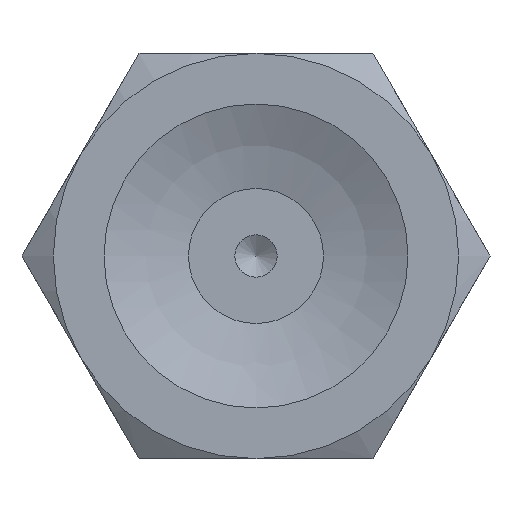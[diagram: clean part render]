
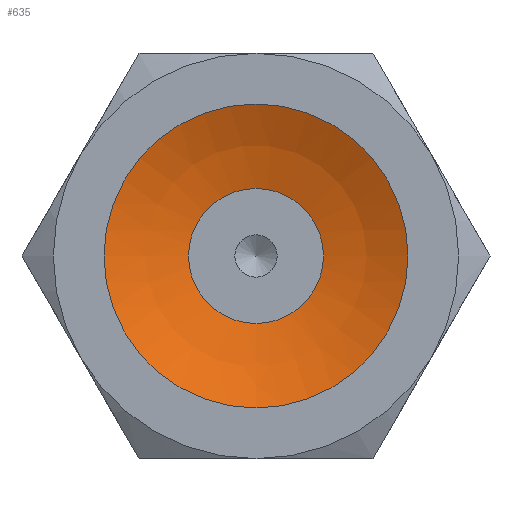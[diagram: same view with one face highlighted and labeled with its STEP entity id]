
A CAD part, front view. The second image highlights one B-rep face of the part: STEP entity #635.
In plain terms, the highlighted spherical face has radius 10.203 mm.
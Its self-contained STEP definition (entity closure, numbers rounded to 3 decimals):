
#635=ADVANCED_FACE('',(#955,#956),#957,.F.);
#955=FACE_OUTER_BOUND('',#1318,.T.);
#956=FACE_OUTER_BOUND('',#1319,.T.);
#957=SPHERICAL_SURFACE('',#1320,10.203);
#1318=EDGE_LOOP('',(#2190));
#1319=EDGE_LOOP('',(#2191));
#1320=AXIS2_PLACEMENT_3D('',#2192,#2193,#2194);
#2190=ORIENTED_EDGE('',*,*,#2559,.T.);
#2191=ORIENTED_EDGE('',*,*,#2558,.F.);
#2192=CARTESIAN_POINT('',(0.,-9.157,0.));
#2193=DIRECTION('',(0.0,-1.0,0.));
#2194=DIRECTION('',(1.0,0.0,0.0));
#2558=EDGE_CURVE('',#2962,#2962,#2963,.T.);
#2559=EDGE_CURVE('',#2964,#2964,#2965,.T.);
#2962=VERTEX_POINT('',#3996);
#2963=CIRCLE('',#3997,2.);
#2964=VERTEX_POINT('',#3998);
#2965=CIRCLE('',#3999,4.5);
#3996=CARTESIAN_POINT('',(0.0,0.848,-2.));
#3997=AXIS2_PLACEMENT_3D('',#4396,#4397,#4398);
#3998=CARTESIAN_POINT('',(0.0,0.,-4.5));
#3999=AXIS2_PLACEMENT_3D('',#4399,#4400,#4401);
#4396=CARTESIAN_POINT('',(0.0,0.848,0.0));
#4397=DIRECTION('',(0.0,-1.0,0.));
#4398=DIRECTION('',(0.0,0.,-1.0));
#4399=CARTESIAN_POINT('',(0.0,0.,0.0));
#4400=DIRECTION('',(0.0,-1.0,0.));
#4401=DIRECTION('',(0.0,0.,-1.0));
